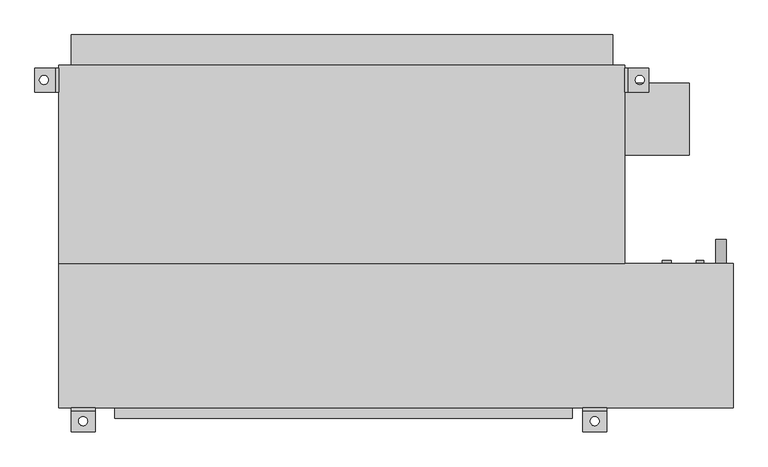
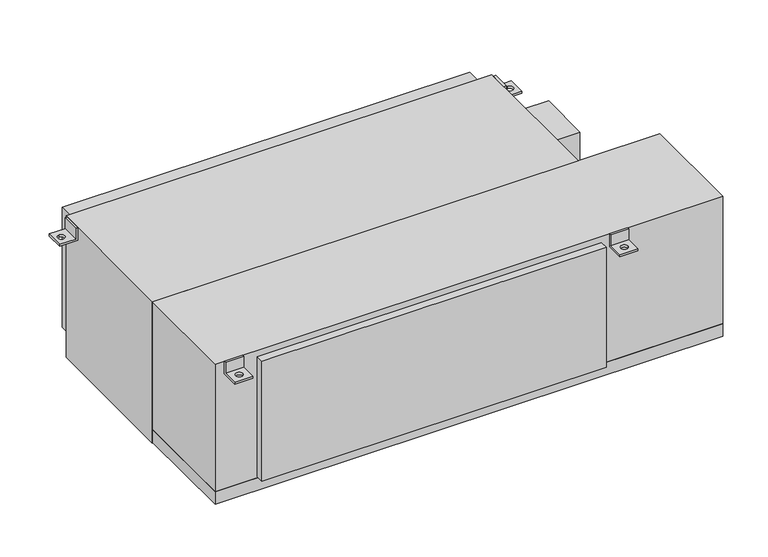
"""IFC4 building model written with IfcOpenShell, lengths in millimetres: proxy geometry, Concealed_High_Capacity_Horizontal_Fan_Coil_Unit_With_Plenum_-_42DCA_-_CARRIER_-_4-Pipe_ValveEnclosure_RH_2022 : Size 16 - 277v/60Hz/1Ph - 6/2 Coil."""

from ifc_helpers import new_model, si_unit, point, frame, frame_2d, origin, place, context, project, spatial, polyline, circle_curve, trimmed, segment, composite_curve, outline, extrude, source, transform, mapped, element, save
from ifc_brep_helpers import plane_surface, revolved_surface, advanced_brep


def mechanical_equipment_871d34c1(model_context):
    return source(origin(), model_context, "Body", "SolidModel", [
        advanced_brep(
        [(711.2, -390.525, 0.0), (711.2, -396.875, 0.0), (711.2, -396.875, -31.75), (711.2, -441.325, -31.75), (711.2, -441.325, -38.1), (711.2, -390.525, -38.1), (660.4, -390.525, 0.0), (660.4, -390.525, -38.1), (660.4, -441.325, -38.1), (660.4, -441.325, -31.75), (660.4, -396.875, -31.75), (660.4, -396.875, 0.0), (676.275, -419.1, -31.75), (695.325, -419.1, -31.75), (695.325, -419.1, -38.1), (676.275, -419.1, -38.1)],
        [
            (0, 1),
            (1, 2),
            (2, 3),
            (3, 4),
            (4, 5),
            (5, 0),
            (6, 7),
            (7, 8),
            (8, 9),
            (9, 10),
            (10, 11),
            (11, 6),
            (0, 6),
            (11, 1),
            (10, 2),
            (9, 3),
            (12, 13, circle_curve(frame((685.8, -419.1, -31.75), z_axis=(0.0, 0.0, -1.0), x_axis=(1.0, 0.0, 0.0)), 9.525)),
            (13, 12, circle_curve(frame((685.8, -419.1, -31.75), z_axis=(0.0, 0.0, -1.0), x_axis=(1.0, 0.0, 0.0)), 9.525)),
            (8, 4),
            (7, 5),
            (14, 15, circle_curve(frame((685.8, -419.1, -38.1), z_axis=(0.0, 0.0, 1.0), x_axis=(1.0, 0.0, 0.0)), 9.525)),
            (15, 14, circle_curve(frame((685.8, -419.1, -38.1), z_axis=(0.0, 0.0, 1.0), x_axis=(1.0, 0.0, 0.0)), 9.525)),
            (12, 15),
            (14, 13),
        ],
        [
            plane_surface(frame((711.2, -396.875, 0.0), z_axis=(1.0, 0.0, 0.0), x_axis=(0.0, -1.0, 0.0))),
            plane_surface(frame((660.4, -396.875, 0.0), z_axis=(-1.0, 0.0, 0.0), x_axis=(0.0, 1.0, 0.0))),
            plane_surface(frame((711.2, -390.525, 0.0), z_axis=(0.0, 0.0, 1.0), x_axis=(-1.0, 0.0, 0.0))),
            plane_surface(frame((711.2, -396.875, 0.0), z_axis=(0.0, -1.0, 0.0), x_axis=(-1.0, 0.0, 0.0))),
            plane_surface(frame((711.2, -396.875, -31.75), z_axis=(0.0, 0.0, 1.0), x_axis=(-1.0, 0.0, 0.0))),
            plane_surface(frame((711.2, -441.325, -31.75), z_axis=(0.0, -1.0, 0.0), x_axis=(-1.0, 0.0, 0.0))),
            plane_surface(frame((711.2, -441.325, -38.1), z_axis=(0.0, 0.0, -1.0), x_axis=(-1.0, 0.0, 0.0))),
            plane_surface(frame((711.2, -390.525, -38.1), z_axis=(0.0, 1.0, 0.0), x_axis=(-1.0, 0.0, 0.0))),
            revolved_surface(polyline([(695.3249999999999, -419.1, -38.1), (695.3249999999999, -419.1, -31.75)]), (685.8, -419.1, -31.75), (0.0, 0.0, -1.0)),
        ],
        [
            (0, [[1, 2, 3, 4, 5, 6]]),
            (1, [[7, 8, 9, 10, 11, 12]]),
            (2, [[-1, 13, -12, 14]]),
            (3, [[-2, -14, -11, 15]]),
            (4, [[-3, -15, -10, 16], [17, 18]]),
            (5, [[-4, -16, -9, 19]]),
            (6, [[-5, -19, -8, 20], [21, 22]]),
            (7, [[-6, -20, -7, -13]]),
            (8, [[23, -21, 24, -17]]),
            (8, [[-23, -18, -24, -22]]),
        ],
    ),
        advanced_brep(
        [(-368.3, -390.525, -38.1), (-368.3, -390.525, 0.0), (-368.3, -396.875, 0.0), (-368.3, -396.875, -31.75), (-368.3, -441.325, -31.75), (-368.3, -441.325, -38.1), (-419.1, -390.525, -38.1), (-419.1, -441.325, -38.1), (-419.1, -441.325, -31.75), (-419.1, -396.875, -31.75), (-419.1, -396.875, 0.0), (-419.1, -390.525, 0.0), (-403.225, -419.1, -31.75), (-384.175, -419.1, -31.75), (-384.175, -419.1, -38.1), (-403.225, -419.1, -38.1)],
        [
            (0, 1),
            (1, 2),
            (2, 3),
            (3, 4),
            (4, 5),
            (5, 0),
            (6, 7),
            (7, 8),
            (8, 9),
            (9, 10),
            (10, 11),
            (11, 6),
            (0, 6),
            (11, 1),
            (10, 2),
            (9, 3),
            (8, 4),
            (12, 13, circle_curve(frame((-393.7, -419.1, -31.75), z_axis=(0.0, 0.0, -1.0), x_axis=(1.0, 0.0, 0.0)), 9.525)),
            (13, 12, circle_curve(frame((-393.7, -419.1, -31.75), z_axis=(0.0, 0.0, -1.0), x_axis=(1.0, 0.0, 0.0)), 9.525)),
            (7, 5),
            (14, 15, circle_curve(frame((-393.7, -419.1, -38.1), z_axis=(0.0, 0.0, 1.0), x_axis=(1.0, 0.0, 0.0)), 9.525)),
            (15, 14, circle_curve(frame((-393.7, -419.1, -38.1), z_axis=(0.0, 0.0, 1.0), x_axis=(1.0, 0.0, 0.0)), 9.525)),
            (12, 15),
            (14, 13),
        ],
        [
            plane_surface(frame((-368.3, -390.525, -38.1), z_axis=(1.0, 0.0, 0.0), x_axis=(0.0, 0.0, 1.0))),
            plane_surface(frame((-419.1, -390.525, -38.1), z_axis=(-1.0, 0.0, 0.0), x_axis=(0.0, 0.0, -1.0))),
            plane_surface(frame((-368.3, -390.525, -38.1), z_axis=(0.0, 1.0, 0.0), x_axis=(-1.0, 0.0, 0.0))),
            plane_surface(frame((-368.3, -390.525, 0.0), z_axis=(0.0, 0.0, 1.0), x_axis=(-1.0, 0.0, 0.0))),
            plane_surface(frame((-368.3, -396.875, 0.0), z_axis=(0.0, -1.0, 0.0), x_axis=(-1.0, 0.0, 0.0))),
            plane_surface(frame((-368.3, -396.875, -31.75), z_axis=(0.0, 0.0, 1.0), x_axis=(-1.0, 0.0, 0.0))),
            plane_surface(frame((-368.3, -441.325, -31.75), z_axis=(0.0, -1.0, 0.0), x_axis=(-1.0, 0.0, 0.0))),
            plane_surface(frame((-368.3, -441.325, -38.1), z_axis=(0.0, 0.0, -1.0), x_axis=(-1.0, 0.0, 0.0))),
            revolved_surface(polyline([(-384.175, -419.1, -38.1), (-384.175, -419.1, -31.75)]), (-393.7, -419.1, -31.75), (0.0, 0.0, -1.0)),
        ],
        [
            (0, [[1, 2, 3, 4, 5, 6]]),
            (1, [[7, 8, 9, 10, 11, 12]]),
            (2, [[-1, 13, -12, 14]]),
            (3, [[-2, -14, -11, 15]]),
            (4, [[-3, -15, -10, 16]]),
            (5, [[-4, -16, -9, 17], [18, 19]]),
            (6, [[-5, -17, -8, 20]]),
            (7, [[-6, -20, -7, -13], [21, 22]]),
            (8, [[23, -21, 24, -18]]),
            (8, [[-23, -19, -24, -22]]),
        ],
    ),
        extrude(outline(composite_curve([segment(trimmed(circle_curve(frame_2d((-400.05, 952.5)), 11.1125), [point((-400.05, 941.3875))], [point((-400.05, 963.6125))], False, "CARTESIAN"), True, "CONTINUOUS"), segment(trimmed(circle_curve(frame_2d((-400.05, 952.5)), 11.1125), [point((-400.05, 963.6125))], [point((-400.05, 941.3875))], False, "CARTESIAN"), True, "CONTINUOUS")], self_intersect=False)), frame((0.0, -85.725, 0.0), z_axis=(0.0, 1.0, 0.0), x_axis=(0.0, 0.0, 1.0)), (0.0, 0.0, 1.0), 50.8),
        extrude(outline(composite_curve([segment(trimmed(circle_curve(frame_2d((-44.45, 838.2)), 9.525), [point((-44.45, 828.675))], [point((-44.45, 847.725))], False, "CARTESIAN"), True, "CONTINUOUS"), segment(trimmed(circle_curve(frame_2d((-44.45, 838.2)), 9.525), [point((-44.45, 847.725))], [point((-44.45, 828.675))], False, "CARTESIAN"), True, "CONTINUOUS")], self_intersect=False)), frame((0.0, -85.725, 0.0), z_axis=(0.0, 1.0, 0.0), x_axis=(0.0, 0.0, 1.0)), (0.0, 0.0, 1.0), 6.35),
        extrude(outline(composite_curve([segment(trimmed(circle_curve(frame_2d((-276.225, 838.2)), 9.525), [point((-276.225, 828.675))], [point((-276.225, 847.725))], False, "CARTESIAN"), True, "CONTINUOUS"), segment(trimmed(circle_curve(frame_2d((-276.225, 838.2)), 9.525), [point((-276.225, 847.725))], [point((-276.225, 828.675))], False, "CARTESIAN"), True, "CONTINUOUS")], self_intersect=False)), frame((0.0, -85.725, 0.0), z_axis=(0.0, 1.0, 0.0), x_axis=(0.0, 0.0, 1.0)), (0.0, 0.0, 1.0), 6.35),
        extrude(outline(composite_curve([segment(trimmed(circle_curve(frame_2d((-69.85, 908.05)), 7.9375), [point((-69.85, 900.1125))], [point((-69.85, 915.9875))], False, "CARTESIAN"), True, "CONTINUOUS"), segment(trimmed(circle_curve(frame_2d((-69.85, 908.05)), 7.9375), [point((-69.85, 915.9875))], [point((-69.85, 900.1125))], False, "CARTESIAN"), True, "CONTINUOUS")], self_intersect=False)), frame((0.0, -85.725, 0.0), z_axis=(0.0, 1.0, 0.0), x_axis=(0.0, 0.0, 1.0)), (0.0, 0.0, 1.0), 6.35),
        extrude(outline(composite_curve([segment(trimmed(circle_curve(frame_2d((-285.75, 908.05)), 7.9375), [point((-285.75, 900.1125))], [point((-285.75, 915.9875))], False, "CARTESIAN"), True, "CONTINUOUS"), segment(trimmed(circle_curve(frame_2d((-285.75, 908.05)), 7.9375), [point((-285.75, 915.9875))], [point((-285.75, 900.1125))], False, "CARTESIAN"), True, "CONTINUOUS")], self_intersect=False)), frame((0.0, -85.725, 0.0), z_axis=(0.0, 1.0, 0.0), x_axis=(0.0, 0.0, 1.0)), (0.0, 0.0, 1.0), 6.35),
        advanced_brep(
        [(-444.5, 327.025, -38.1), (-495.3, 327.025, -38.1), (-495.3, 327.025, -31.75), (-450.85, 327.025, -31.75), (-450.85, 327.025, 0.0), (-444.5, 327.025, 0.0), (-444.5, 276.225, -38.1), (-444.5, 276.225, 0.0), (-450.85, 276.225, 0.0), (-450.85, 276.225, -31.75), (-495.3, 276.225, -31.75), (-495.3, 276.225, -38.1), (-476.25, 292.1, -38.1), (-476.25, 311.15, -38.1), (-476.25, 311.15, -31.75), (-476.25, 292.1, -31.75)],
        [
            (0, 1),
            (1, 2),
            (2, 3),
            (3, 4),
            (4, 5),
            (5, 0),
            (6, 7),
            (7, 8),
            (8, 9),
            (9, 10),
            (10, 11),
            (11, 6),
            (0, 6),
            (11, 1),
            (12, 13, circle_curve(frame((-476.25, 301.625, -38.1), z_axis=(0.0, 0.0, 1.0), x_axis=(0.0, -1.0, 0.0)), 9.525)),
            (13, 12, circle_curve(frame((-476.25, 301.625, -38.1), z_axis=(0.0, 0.0, 1.0), x_axis=(0.0, -1.0, 0.0)), 9.525)),
            (10, 2),
            (9, 3),
            (14, 15, circle_curve(frame((-476.25, 301.625, -31.75), z_axis=(0.0, 0.0, -1.0), x_axis=(0.0, -1.0, 0.0)), 9.525)),
            (15, 14, circle_curve(frame((-476.25, 301.625, -31.75), z_axis=(0.0, 0.0, -1.0), x_axis=(0.0, -1.0, 0.0)), 9.525)),
            (8, 4),
            (7, 5),
            (14, 13),
            (12, 15),
        ],
        [
            plane_surface(frame((-444.5, 327.025, -38.1), z_axis=(0.0, 1.0, 0.0), x_axis=(-1.0, 0.0, 0.0))),
            plane_surface(frame((-444.5, 276.225, -38.1), z_axis=(0.0, -1.0, 0.0), x_axis=(1.0, 0.0, 0.0))),
            plane_surface(frame((-444.5, 327.025, -38.1), z_axis=(0.0, 0.0, -1.0), x_axis=(0.0, -1.0, 0.0))),
            plane_surface(frame((-495.3, 327.025, -38.1), z_axis=(-1.0, 0.0, 0.0), x_axis=(0.0, -1.0, 0.0))),
            plane_surface(frame((-495.3, 327.025, -31.75), z_axis=(0.0, 0.0, 1.0), x_axis=(0.0, -1.0, 0.0))),
            plane_surface(frame((-450.85, 327.025, -31.75), z_axis=(-1.0, 0.0, 0.0), x_axis=(0.0, -1.0, 0.0))),
            plane_surface(frame((-450.85, 327.025, 0.0), z_axis=(0.0, 0.0, 1.0), x_axis=(0.0, -1.0, 0.0))),
            plane_surface(frame((-444.5, 327.025, 0.0), z_axis=(1.0, 0.0, 0.0), x_axis=(0.0, -1.0, 0.0))),
            revolved_surface(polyline([(-476.25, 292.1, -38.1), (-476.25, 292.1, -31.75)]), (-476.25, 301.625, -31.75), (0.0, 0.0, -1.0)),
        ],
        [
            (0, [[1, 2, 3, 4, 5, 6]]),
            (1, [[7, 8, 9, 10, 11, 12]]),
            (2, [[-1, 13, -12, 14], [15, 16]]),
            (3, [[-2, -14, -11, 17]]),
            (4, [[-3, -17, -10, 18], [19, 20]]),
            (5, [[-4, -18, -9, 21]]),
            (6, [[-5, -21, -8, 22]]),
            (7, [[-6, -22, -7, -13]]),
            (8, [[23, -15, 24, -19]]),
            (8, [[-23, -20, -24, -16]]),
        ],
    ),
        advanced_brep(
        [(749.3, 327.025, -38.1), (749.3, 327.025, 0.0), (755.65, 327.025, 0.0), (755.65, 327.025, -31.75), (800.1, 327.025, -31.75), (800.1, 327.025, -38.1), (749.3, 276.225, -38.1), (800.1, 276.225, -38.1), (800.1, 276.225, -31.75), (755.65, 276.225, -31.75), (755.65, 276.225, 0.0), (749.3, 276.225, 0.0), (781.05, 311.15, -31.75), (781.05, 292.1, -31.75), (781.05, 292.1, -38.1), (781.05, 311.15, -38.1)],
        [
            (0, 1),
            (1, 2),
            (2, 3),
            (3, 4),
            (4, 5),
            (5, 0),
            (6, 7),
            (7, 8),
            (8, 9),
            (9, 10),
            (10, 11),
            (11, 6),
            (0, 6),
            (11, 1),
            (10, 2),
            (9, 3),
            (8, 4),
            (12, 13, circle_curve(frame((781.05, 301.625, -31.75), z_axis=(0.0, 0.0, -1.0), x_axis=(0.0, -1.0, 0.0)), 9.525)),
            (13, 12, circle_curve(frame((781.05, 301.625, -31.75), z_axis=(0.0, 0.0, -1.0), x_axis=(0.0, -1.0, 0.0)), 9.525)),
            (7, 5),
            (14, 15, circle_curve(frame((781.05, 301.625, -38.1), z_axis=(0.0, 0.0, 1.0), x_axis=(0.0, -1.0, 0.0)), 9.525)),
            (15, 14, circle_curve(frame((781.05, 301.625, -38.1), z_axis=(0.0, 0.0, 1.0), x_axis=(0.0, -1.0, 0.0)), 9.525)),
            (12, 15),
            (14, 13),
        ],
        [
            plane_surface(frame((-444.5, 327.025, -38.1), z_axis=(0.0, 1.0, 0.0), x_axis=(-1.0, 0.0, 0.0))),
            plane_surface(frame((-444.5, 276.225, -38.1), z_axis=(0.0, -1.0, 0.0), x_axis=(1.0, 0.0, 0.0))),
            plane_surface(frame((749.3, 327.025, -38.1), z_axis=(-1.0, 0.0, 0.0), x_axis=(0.0, -1.0, 0.0))),
            plane_surface(frame((749.3, 327.025, 0.0), z_axis=(0.0, 0.0, 1.0), x_axis=(0.0, -1.0, 0.0))),
            plane_surface(frame((755.65, 327.025, 0.0), z_axis=(1.0, 0.0, 0.0), x_axis=(0.0, -1.0, 0.0))),
            plane_surface(frame((755.65, 327.025, -31.75), z_axis=(0.0, 0.0, 1.0), x_axis=(0.0, -1.0, 0.0))),
            plane_surface(frame((800.1, 327.025, -31.75), z_axis=(1.0, 0.0, 0.0), x_axis=(0.0, -1.0, 0.0))),
            plane_surface(frame((800.1, 327.025, -38.1), z_axis=(0.0, 0.0, -1.0), x_axis=(0.0, -1.0, 0.0))),
            revolved_surface(polyline([(781.05, 292.1, -38.1), (781.05, 292.1, -31.75)]), (781.05, 301.625, -31.75), (0.0, 0.0, -1.0)),
        ],
        [
            (0, [[1, 2, 3, 4, 5, 6]]),
            (1, [[7, 8, 9, 10, 11, 12]]),
            (2, [[-1, 13, -12, 14]]),
            (3, [[-2, -14, -11, 15]]),
            (4, [[-3, -15, -10, 16]]),
            (5, [[-4, -16, -9, 17], [18, 19]]),
            (6, [[-5, -17, -8, 20]]),
            (7, [[-6, -20, -7, -13], [21, 22]]),
            (8, [[23, -21, 24, -18]]),
            (8, [[-23, -19, -24, -22]]),
        ],
    ),
        extrude(outline(polyline([(-419.1, 396.875), (723.9, 396.875), (723.9, 333.375), (-419.1, 333.375), (-419.1, 396.875)])), frame((0.0, 0.0, -377.825), z_axis=(0.0, 0.0, 1.0), x_axis=(1.0, 0.0, 0.0)), (0.0, 0.0, 1.0), 355.6),
        extrude(outline(polyline([(885.825, 295.275), (885.825, 142.875), (749.3, 142.875), (749.3, 295.275), (885.825, 295.275)])), frame((0.0, 0.0, -254.0), z_axis=(0.0, 0.0, 1.0), x_axis=(1.0, 0.0, 0.0)), (0.0, 0.0, 1.0), 152.4),
        extrude(outline(polyline([(638.175, -412.75), (-327.025, -412.75), (-327.025, -390.525), (638.175, -390.525), (638.175, -412.75)])), frame((0.0, 0.0, -374.65), z_axis=(0.0, 0.0, 1.0), x_axis=(1.0, 0.0, 0.0)), (0.0, 0.0, 1.0), 355.6),
        extrude(outline(polyline([(749.3, -85.725), (-444.5, -85.725), (-444.5, 333.375), (749.3, 333.375), (749.3, -85.725)])), frame((0.0, 0.0, -419.1), z_axis=(0.0, 0.0, 1.0), x_axis=(1.0, 0.0, 0.0)), (0.0, 0.0, 1.0), 419.1),
        extrude(outline(polyline([(977.9, -85.725), (977.9, -390.525), (-444.5, -390.525), (-444.5, -85.725), (977.9, -85.725)])), frame((0.0, 0.0, -377.825), z_axis=(0.0, 0.0, 1.0), x_axis=(1.0, 0.0, 0.0)), (0.0, 0.0, 1.0), 377.825),
        extrude(outline(polyline([(977.9, -85.725), (977.9, -390.525), (-444.5, -390.525), (-444.5, -85.725), (977.9, -85.725)])), frame((0.0, 0.0, -415.925), z_axis=(0.0, 0.0, 1.0), x_axis=(1.0, 0.0, 0.0)), (0.0, 0.0, 1.0), 38.1),
    ])


if __name__ == "__main__":
    model = new_model("IFC4")
    model_context = context("Model", 3, world=origin())
    ifc_project = project(units=[si_unit("LENGTHUNIT", "METRE", prefix="MILLI")], contexts=[model_context])
    site = spatial("IfcSite", under=ifc_project)
    building = spatial("IfcBuilding", under=site)
    placement = place(None, origin())
    mechanical_equipment_shape = mechanical_equipment_871d34c1(model_context)
    element("IfcBuildingElementProxy", 1, Name="Concealed_High_Capacity_Horizontal_Fan_Coil_Unit_With_Plenum_-_42DCA_-_CARRIER_-_4-Pipe_ValveEnclosure_RH_2022 : Size 16 - 277v/60Hz/1Ph - 6/2 Coil", ObjectType="Concealed_High_Capacity_Horizontal_Fan_Coil_Unit_With_Plenum_-_42DCA_-_CARRIER_-_4-Pipe_ValveEnclosure_RH_2022 : Size 16 - 277v/60Hz/1Ph - 6/2 Coil", at=placement, inside=building, context=model_context, shape_type="MappedRepresentation", body=[
        mapped(mechanical_equipment_shape, transform((0.0, 0.0, 0.0), x_axis=(1.0, 0.0, 0.0), y_axis=(0.0, 1.0, 0.0), z_axis=(0.0, 0.0, 1.0))),
    ])
    save(model, "model.ifc")
